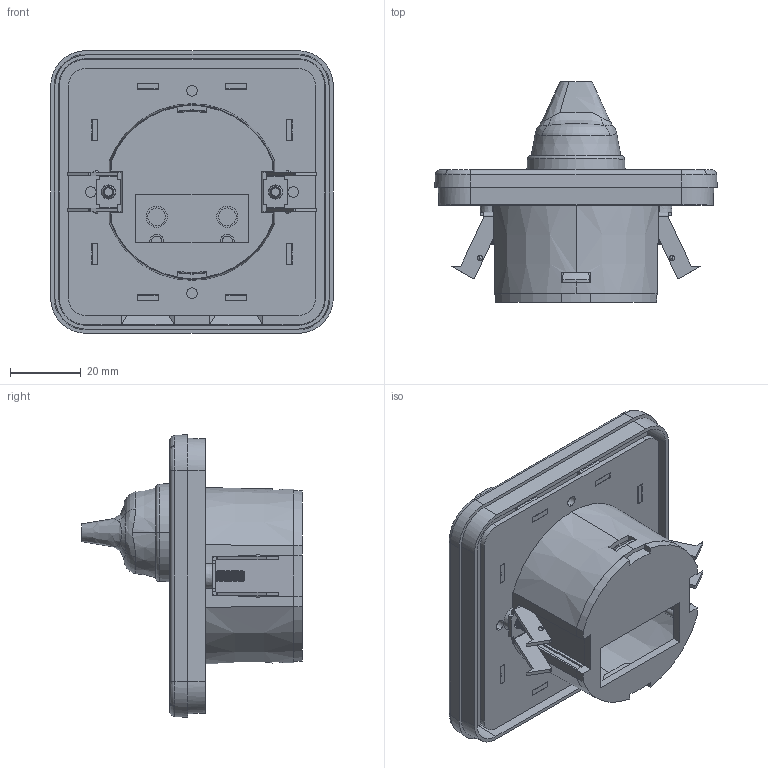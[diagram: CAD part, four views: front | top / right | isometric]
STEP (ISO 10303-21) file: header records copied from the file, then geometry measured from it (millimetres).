
FILE_DESCRIPTION (( 'STEP AP203' ), '1' );
FILE_NAME ('NC-120.STEP', '2019-08-06T11:48:16', ( '' ), ( '' ), 'SwSTEP 2.0', 'SolidWorks 2019', '' );
FILE_SCHEMA (( 'CONFIG_CONTROL_DESIGN' ));
Length unit declared in the file: millimetre
Products named in the file (9): NC-100-P-6L; NC-120-P-1_alt; NC-120-P-1; NC-100-P-5; NC-120-P-2; tirnak; A-687; NC-120; NC-100-P-6R
Assembly tree (10 placements, depth 2):
  NC-120
    NC-120-P-1
    NC-120-P-1_alt
    NC-100-P-5
    NC-100-P-6R
    NC-100-P-6L
    NC-120-P-2
    tirnak  x2
    A-687  x2
Bounding box: 80 x 62.5 x 80 mm (x, y, z)
Volume: 51696 mm3; surface area: 52165.2 mm2
Topology: 10 solids, 10 shells, 879 faces, 2422 edges, 1582 vertices
Faces by surface type: plane 505, cylinder 256, cone 76, bspline 28, torus 14
Entity records: 30276 total; most frequent: CARTESIAN_POINT 11051, ORIENTED_EDGE 4064, DIRECTION 3481, EDGE_CURVE 2032, VERTEX_POINT 1332, VECTOR 1317, LINE 1317, AXIS2_PLACEMENT_3D 1082
